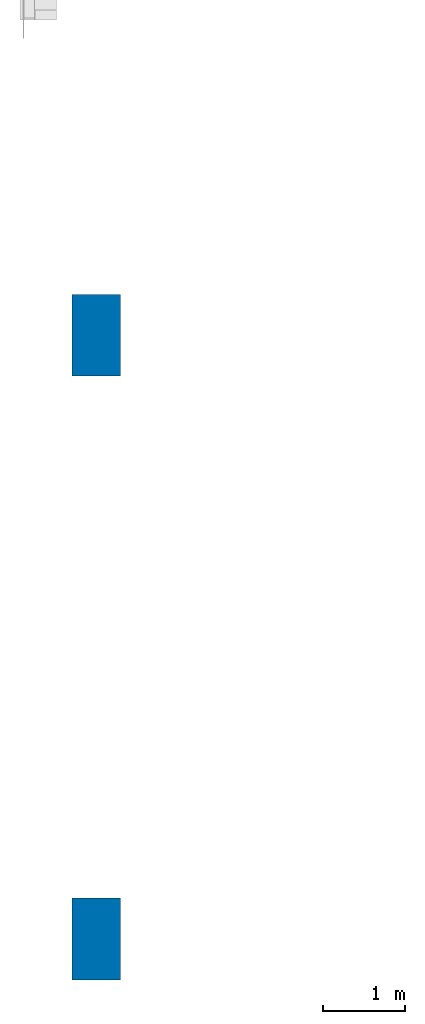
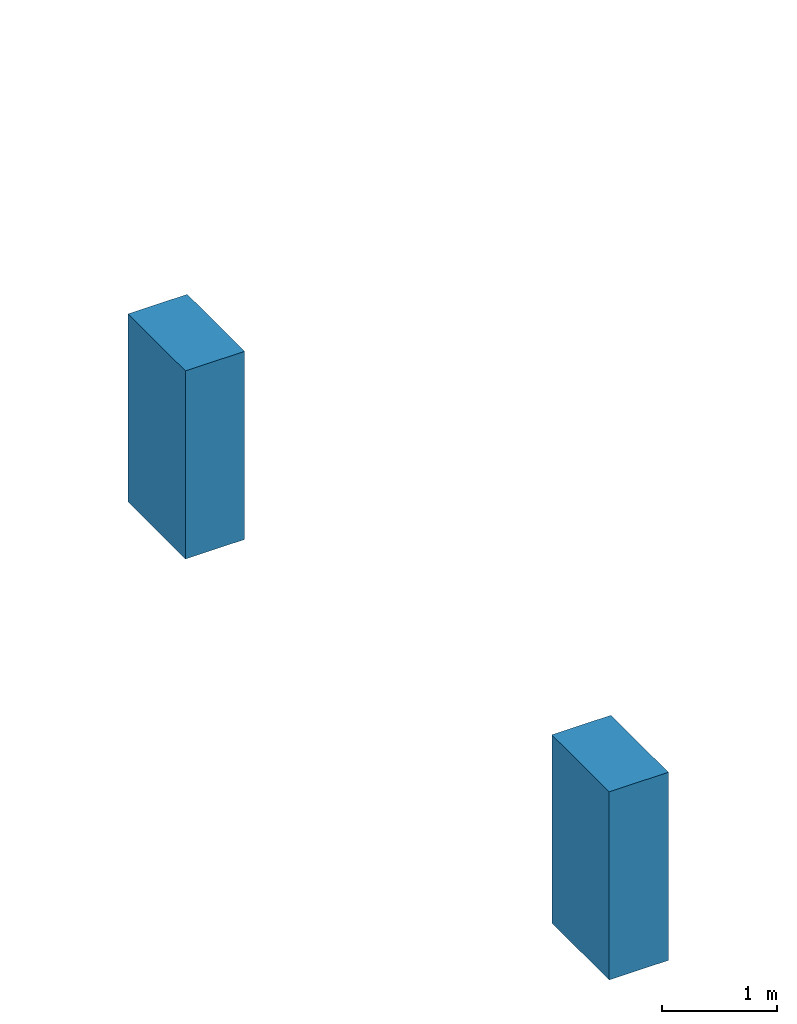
# Not in any storey, part 1 of 2: 2 walls.
"""IFC2X3 model written with IfcOpenShell, lengths in metres."""

import ifcopenshell
import ifcopenshell.guid

model = None  # the IFC model being written
_history = None  # IfcOwnerHistory: only IFC2X3 demands one
_inside = {}  # id of a spatial element -> (the spatial element, [elements in it])
_under = {}  # id of a project, library or spatial element -> (it, [spatial elements below it])
_declared = {}  # id of a project -> (the project, [libraries it declares])
_typed = {}  # id of a type object -> (the type object, [elements of that type])
_made_of = {}  # id of a material, layer set ... -> (it, [elements and type objects made of it])


def new_model(schema):
    """Start an empty IFC model of exactly this schema.

    Asked for "IFC4X3", IfcOpenShell would pick the latest addendum, in which some entities
    have other attributes; the version numbers below select the first issue.
    IFC2X3 requires an IfcOwnerHistory on every rooted entity: one is made here for all.
    """
    global model, _history
    if schema == "IFC4X3":
        model = ifcopenshell.file(schema_version=(4, 3, 0, 0))
    else:
        model = ifcopenshell.file(schema=schema)
    _inside.clear()
    _under.clear()
    _declared.clear()
    _typed.clear()
    _made_of.clear()
    _history = None
    if model.schema == "IFC2X3":
        org = make("IfcOrganization", Name="unknown")
        user = make(
            "IfcPersonAndOrganization",
            ThePerson=make("IfcPerson", FamilyName="unknown"),
            TheOrganization=org,
        )
        app = make(
            "IfcApplication",
            ApplicationDeveloper=org,
            Version="unknown",
            ApplicationFullName="unknown",
            ApplicationIdentifier="unknown",
        )
        _history = make(
            "IfcOwnerHistory",
            OwningUser=user,
            OwningApplication=app,
            ChangeAction="ADDED",
            CreationDate=0,
        )
    return model


def make(cls, **values):
    """One entity of the class cls with the attributes given. An attribute that is None is left unset."""
    return model.create_entity(
        cls, **{name: value for name, value in values.items() if value is not None}
    )


def entity(cls, *values):
    """Any entity or typed value of the class cls, its attributes in the order of the schema. None: left unset."""
    e = model.create_entity(cls)
    for i, value in enumerate(values):
        if value is not None:
            e[i] = value
    return e


def rooted(cls, **values):
    """An entity with a GlobalId (a new one), such as an element, a storey or a relation."""
    return make(cls, GlobalId=ifcopenshell.guid.new(), OwnerHistory=_history, **values)


def si_unit(unit_type, name, prefix=None):
    """IfcSIUnit, for example si_unit("LENGTHUNIT", "METRE", prefix="MILLI")."""
    return make("IfcSIUnit", UnitType=unit_type, Prefix=prefix, Name=name)


def converted_unit(unit_type, name, factor, base, dimensions=None, offset=None):
    """IfcConversionBasedUnit, such as the inch: factor (a typed value) times the base unit."""
    return make(
        "IfcConversionBasedUnit"
        if offset is None
        else "IfcConversionBasedUnitWithOffset",
        ConversionOffset=offset,
        Dimensions=None
        if dimensions is None
        else entity("IfcDimensionalExponents", *dimensions),
        UnitType=unit_type,
        Name=name,
        ConversionFactor=make(
            "IfcMeasureWithUnit", ValueComponent=factor, UnitComponent=base
        ),
    )


def derived_unit(unit_type, elements):
    """IfcDerivedUnit: a product of units, each with its exponent."""
    return make(
        "IfcDerivedUnit",
        Elements=[
            make("IfcDerivedUnitElement", Unit=unit, Exponent=power)
            for unit, power in elements
        ],
        UnitType=unit_type,
    )


def assignment(units):
    """IfcUnitAssignment: the units of a project."""
    return None if units is None else make("IfcUnitAssignment", Units=units)


def point(xyz):
    """IfcCartesianPoint."""
    return None if xyz is None else make("IfcCartesianPoint", Coordinates=xyz)


def direction(xyz):
    """IfcDirection."""
    return None if xyz is None else make("IfcDirection", DirectionRatios=xyz)


def frame(location, z_axis=None, x_axis=None):
    """IfcAxis2Placement3D, a coordinate frame: its origin and axes. An axis left out is left unset."""
    return make(
        "IfcAxis2Placement3D",
        Location=point(location),
        Axis=direction(z_axis),
        RefDirection=direction(x_axis),
    )


def origin():
    """The frame at (0, 0, 0) with its axes left unset."""
    return frame((0.0, 0.0, 0.0))


def origin_with_axes():
    """The frame at (0, 0, 0) with the z axis (0, 0, 1) and the x axis (1, 0, 0) written out."""
    return frame((0.0, 0.0, 0.0), z_axis=(0.0, 0.0, 1.0), x_axis=(1.0, 0.0, 0.0))


def place(relative_to, where):
    """IfcLocalPlacement: puts the frame where relative to a parent placement (None: the world)."""
    return make(
        "IfcLocalPlacement", PlacementRelTo=relative_to, RelativePlacement=where
    )


def context(
    kind, dimensions, precision=None, world=None, true_north=None, identifier=None
):
    """IfcGeometricRepresentationContext, for example the 3D "Model" context."""
    return make(
        "IfcGeometricRepresentationContext",
        ContextIdentifier=identifier,
        ContextType=kind,
        CoordinateSpaceDimension=dimensions,
        Precision=precision,
        WorldCoordinateSystem=world,
        TrueNorth=true_north,
    )


def subcontext(parent, identifier, kind, view, scale=None):
    """IfcGeometricRepresentationSubContext, for example "Body" below "Model"."""
    return make(
        "IfcGeometricRepresentationSubContext",
        ContextIdentifier=identifier,
        ContextType=kind,
        ParentContext=parent,
        TargetScale=scale,
        TargetView=view,
    )


def project(units=None, contexts=None):
    """IfcProject with its units and contexts."""
    return rooted(
        "IfcProject",
        Name="project",
        RepresentationContexts=contexts,
        UnitsInContext=assignment(units),
    )


def polyline(points):
    """IfcPolyline through the points."""
    return make("IfcPolyline", Points=[point(p) for p in points])


def outline(outer, holes=None, kind="AREA"):
    """IfcArbitraryClosedProfileDef: a profile drawn as a closed curve; with holes, ...WithVoids."""
    if holes is None:
        return make("IfcArbitraryClosedProfileDef", ProfileType=kind, OuterCurve=outer)
    return make(
        "IfcArbitraryProfileDefWithVoids",
        ProfileType=kind,
        OuterCurve=outer,
        InnerCurves=holes,
    )


def extrude(swept, where, along, depth):
    """IfcExtrudedAreaSolid: the profile swept, set in the frame where, extruded along a direction by depth."""
    return make(
        "IfcExtrudedAreaSolid",
        SweptArea=swept,
        Position=where,
        ExtrudedDirection=direction(along),
        Depth=depth,
    )


def shape(context_of_items, identifier, shape_type, items):
    """IfcShapeRepresentation: the items that make up one representation, for example the "Body"."""
    return make(
        "IfcShapeRepresentation",
        ContextOfItems=context_of_items,
        RepresentationIdentifier=identifier,
        RepresentationType=shape_type,
        Items=items,
    )


def material(Name=None, Category=None):
    """IfcMaterial."""
    return make("IfcMaterial", Name=Name, Category=Category)


def layer(
    of_material, thickness, ventilated=None, Name=None, Category=None, Priority=None
):
    """IfcMaterialLayer: one layer of a wall or slab, of a material (None: an air gap)."""
    return make(
        "IfcMaterialLayer",
        Material=of_material,
        LayerThickness=thickness,
        IsVentilated=ventilated,
        Name=Name,
        Category=Category,
        Priority=Priority,
    )


def layer_set(layers, Name=None):
    """IfcMaterialLayerSet."""
    return make("IfcMaterialLayerSet", MaterialLayers=layers, LayerSetName=Name)


def layer_usage(for_layer_set, set_direction, sense, offset, extent=None):
    """IfcMaterialLayerSetUsage: how a layer set lies in its element."""
    return make(
        "IfcMaterialLayerSetUsage",
        ForLayerSet=for_layer_set,
        LayerSetDirection=set_direction,
        DirectionSense=sense,
        OffsetFromReferenceLine=offset,
        ReferenceExtent=extent,
    )


def made_of(thing, what):
    """Note that an element or type object is made of a material, layer set ...; save() writes the relation."""
    if what is not None:
        _made_of.setdefault(what.id(), (what, []))[1].append(thing)
    return thing


def type_object(cls, material=None, **own):
    """A type object (cls), such as IfcWallType, which elements share."""
    return made_of(rooted(cls, **own), material)


def element(
    cls,
    number,
    at=None,
    inside=None,
    cuts=None,
    type_object=None,
    material=None,
    context=None,
    identifier="Body",
    shape_type=None,
    held_by="IfcProductDefinitionShape",
    body=None,
    shapes=None,
    **own,
):
    """One element of the class cls, such as IfcWall. Its Tag is "e" and its number.

    at: its placement. inside: the storey or other place that contains it. cuts: it is an
    opening in that element (IfcRelVoidsElement). A single representation is given by context,
    identifier, shape_type and body (its items); several are given by shapes. held_by: the class
    of the entity that holds the representations. save() writes the other relations.
    """
    e = rooted(cls, Tag="e%d" % number, ObjectPlacement=at, **own)
    if body is not None:
        shapes = [shape(context, identifier, shape_type, body)]
    if shapes is not None:
        e.Representation = make(held_by, Representations=shapes)
    if inside is not None:
        _inside.setdefault(inside.id(), (inside, []))[1].append(e)
    if cuts is not None:
        rooted(
            "IfcRelVoidsElement", RelatingBuildingElement=cuts, RelatedOpeningElement=e
        )
    if type_object is not None:
        _typed.setdefault(type_object.id(), (type_object, []))[1].append(e)
    return made_of(e, material)


def aggregate(whole, parts):
    """IfcRelAggregates: a whole, such as a stair, and the parts it consists of."""
    return rooted("IfcRelAggregates", RelatingObject=whole, RelatedObjects=parts)


def save(model, path):
    """Write the relations noted so far, then the file.

    IfcRelAggregates (storeys below a building ...), IfcRelContainedInSpatialStructure (elements
    in a storey), IfcRelDefinesByType, IfcRelAssociatesMaterial and IfcRelDeclares: one each for
    every whole, place, type object, material and project.
    """
    for whole, parts in _under.values():
        aggregate(whole, parts)
    for where, things in _inside.values():
        rooted(
            "IfcRelContainedInSpatialStructure",
            RelatedElements=things,
            RelatingStructure=where,
        )
    for kind, things in _typed.values():
        rooted("IfcRelDefinesByType", RelatedObjects=things, RelatingType=kind)
    for what, things in _made_of.values():
        rooted("IfcRelAssociatesMaterial", RelatedObjects=things, RelatingMaterial=what)
    for by, libraries in _declared.values():
        rooted("IfcRelDeclares", RelatingContext=by, RelatedDefinitions=libraries)
    model.write(path)


model = new_model("IFC2X3")

# Units and contexts
model_context = context("Model", 3, precision=1e-05, world=origin(), true_north=direction((6.12303176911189e-17, 1.0)))
plan_context = context("Plan", 3, precision=1e-05, world=origin(), true_north=direction((6.12303176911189e-17, 1.0)))
body_context = subcontext(model_context, "Body", "Model", "MODEL_VIEW")
ifc_project = project(units=[si_unit("LENGTHUNIT", "METRE"), si_unit("AREAUNIT", "SQUARE_METRE"), si_unit("VOLUMEUNIT", "CUBIC_METRE"), converted_unit("PLANEANGLEUNIT", "DEGREE", entity("IfcRatioMeasure", 0.0174532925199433), si_unit("PLANEANGLEUNIT", "RADIAN"), dimensions=[0, 0, 0, 0, 0, 0, 0]), si_unit("MASSUNIT", "GRAM", prefix="KILO"), derived_unit("MASSDENSITYUNIT", [(si_unit("MASSUNIT", "GRAM", prefix="KILO"), 1), (si_unit("LENGTHUNIT", "METRE"), -3)]), derived_unit("MOMENTOFINERTIAUNIT", [(si_unit("LENGTHUNIT", "METRE"), 4)]), si_unit("TIMEUNIT", "SECOND"), si_unit("FREQUENCYUNIT", "HERTZ"), si_unit("THERMODYNAMICTEMPERATUREUNIT", "DEGREE_CELSIUS"), derived_unit("THERMALTRANSMITTANCEUNIT", [(si_unit("MASSUNIT", "GRAM", prefix="KILO"), 1), (si_unit("THERMODYNAMICTEMPERATUREUNIT", "KELVIN"), -1), (si_unit("TIMEUNIT", "SECOND"), -3)]), derived_unit("VOLUMETRICFLOWRATEUNIT", [(si_unit("LENGTHUNIT", "METRE"), 3), (si_unit("TIMEUNIT", "SECOND"), -1)]), derived_unit("MASSFLOWRATEUNIT", [(si_unit("MASSUNIT", "GRAM", prefix="KILO"), 1), (si_unit("TIMEUNIT", "SECOND"), -1)]), derived_unit("ROTATIONALFREQUENCYUNIT", [(si_unit("TIMEUNIT", "SECOND"), -1)]), si_unit("ELECTRICCURRENTUNIT", "AMPERE"), si_unit("ELECTRICVOLTAGEUNIT", "VOLT"), si_unit("POWERUNIT", "WATT"), si_unit("FORCEUNIT", "NEWTON", prefix="KILO"), si_unit("ILLUMINANCEUNIT", "LUX"), si_unit("LUMINOUSFLUXUNIT", "LUMEN"), si_unit("LUMINOUSINTENSITYUNIT", "CANDELA"), derived_unit("USERDEFINED", [(si_unit("MASSUNIT", "GRAM", prefix="KILO"), -1), (si_unit("LENGTHUNIT", "METRE"), -2), (si_unit("TIMEUNIT", "SECOND"), 3), (si_unit("LUMINOUSFLUXUNIT", "LUMEN"), 1)]), derived_unit("SOUNDPOWERUNIT", [(si_unit("MASSUNIT", "GRAM", prefix="KILO"), 1), (si_unit("LENGTHUNIT", "METRE"), 2), (si_unit("TIMEUNIT", "SECOND"), -3)]), derived_unit("SOUNDPRESSUREUNIT", [(si_unit("MASSUNIT", "GRAM", prefix="KILO"), 1), (si_unit("LENGTHUNIT", "METRE"), -1), (si_unit("TIMEUNIT", "SECOND"), -2)]), derived_unit("LINEARVELOCITYUNIT", [(si_unit("LENGTHUNIT", "METRE"), 1), (si_unit("TIMEUNIT", "SECOND"), -1)]), si_unit("PRESSUREUNIT", "PASCAL"), derived_unit("USERDEFINED", [(si_unit("LENGTHUNIT", "METRE"), -2), (si_unit("MASSUNIT", "GRAM", prefix="KILO"), 1), (si_unit("TIMEUNIT", "SECOND"), -2)]), derived_unit("LINEARFORCEUNIT", [(si_unit("MASSUNIT", "GRAM", prefix="KILO"), 1), (si_unit("LENGTHUNIT", "METRE"), 1), (si_unit("TIMEUNIT", "SECOND"), -2), (si_unit("LENGTHUNIT", "METRE"), -1)]), derived_unit("PLANARFORCEUNIT", [(si_unit("MASSUNIT", "GRAM", prefix="KILO"), 1), (si_unit("LENGTHUNIT", "METRE"), 1), (si_unit("TIMEUNIT", "SECOND"), -2), (si_unit("LENGTHUNIT", "METRE"), -2)])], contexts=[model_context, plan_context])

# Walls
ifc_material_1 = material(Name="Mauerwerk - Sichtmauerwerk_72x265 english bond")
ifc_layer_1 = layer(ifc_material_1, 0.25)
ifc_material_2 = material(Name="Mauerwerk - Naturstein Weiß")
ifc_layer_2 = layer(ifc_material_2, 0.345)
ifc_layer_set = layer_set([ifc_layer_1, ifc_layer_2], Name="Basiswand:Ziegel 595 farbig rohbau 72 English bond 2")
ifc_layer_usage_1 = layer_usage(ifc_layer_set, "AXIS2", "POSITIVE", 0.0)
wall_type = type_object("IfcWallType", Name="Basiswand:Ziegel 595 farbig rohbau 72 English bond 2", PredefinedType="STANDARD", material=ifc_layer_set)
wall_1_placement = place(None, frame((-10.8913822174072, 24.5050354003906, 1.2849999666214), z_axis=(0.0, 0.0, 1.0), x_axis=(-4.37113882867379e-08, 0.999999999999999, 0.0)))
element("IfcWall", 1, at=wall_1_placement, type_object=wall_type, material=ifc_layer_usage_1, Name="Window Infil north west", context=body_context, shape_type="SweptSolid", body=[
    extrude(outline(polyline([(0.0, 0.0), (0.0, 0.595), (1.0, 0.595), (1.0, 0.0), (0.0, 0.0)])), origin_with_axes(), (0.0, 0.0, 1.0), 2.0),
])
ifc_layer_usage_2 = layer_usage(ifc_layer_set, "AXIS2", "POSITIVE", 0.0)
wall_2_placement = place(None, frame((-10.8913812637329, 31.884033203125, 1.2849999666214), z_axis=(0.0, 0.0, 1.0), x_axis=(-4.37113882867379e-08, 0.999999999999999, 0.0)))
element("IfcWall", 2, at=wall_2_placement, type_object=wall_type, material=ifc_layer_usage_2, Name="Window Infil north east", context=body_context, shape_type="SweptSolid", body=[
    extrude(outline(polyline([(0.0, 0.0), (0.0, 0.595), (1.0, 0.595), (1.0, 0.0), (0.0, 0.0)])), origin_with_axes(), (0.0, 0.0, 1.0), 2.0),
])

save(model, "model.ifc")
